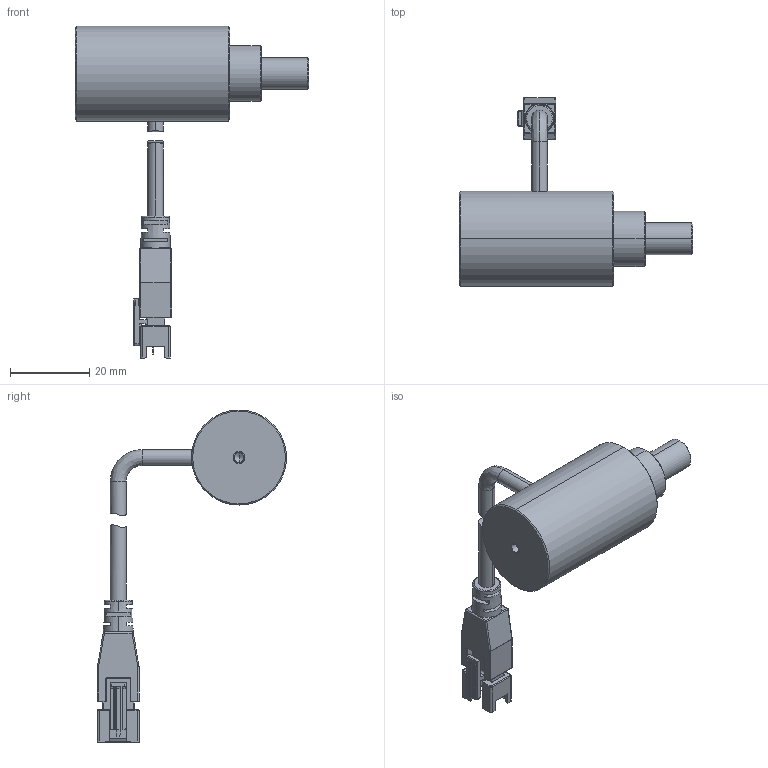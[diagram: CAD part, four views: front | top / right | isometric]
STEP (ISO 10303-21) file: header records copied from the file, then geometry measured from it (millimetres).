
FILE_DESCRIPTION (( 'STEP AP203' ), '1' );
FILE_NAME ('06 MV-LDSS-8-3-W 光源_3d尺寸图（STP）.STEP', '2019-09-19T08:59:12', ( '' ), ( '' ), 'SwSTEP 2.0', 'SolidWorks 2016', '' );
FILE_SCHEMA (( 'CONFIG_CONTROL_DESIGN' ));
Length unit declared in the file: millimetre
Products named in the file (3): JIANYI; LINE_TOU; 06 MV-LDSS-8-3-W 光源_3d尺寸图（STP）
Assembly tree (2 placements, depth 2):
  06 MV-LDSS-8-3-W 光源_3d尺寸图（STP）
    JIANYI
    LINE_TOU
Bounding box: 59 x 47.73 x 83.8 mm (x, y, z)
Volume: 2626 mm3; surface area: 7098.3 mm2
Topology: 2 solids, 4 shells, 266 faces, 669 edges, 408 vertices
Faces by surface type: plane 141, cylinder 79, bspline 34, cone 12
Entity records: 8817 total; most frequent: CARTESIAN_POINT 2368, ORIENTED_EDGE 1296, DIRECTION 1264, EDGE_CURVE 650, AXIS2_PLACEMENT_3D 430, VERTEX_POINT 408, LINE 404, VECTOR 404
